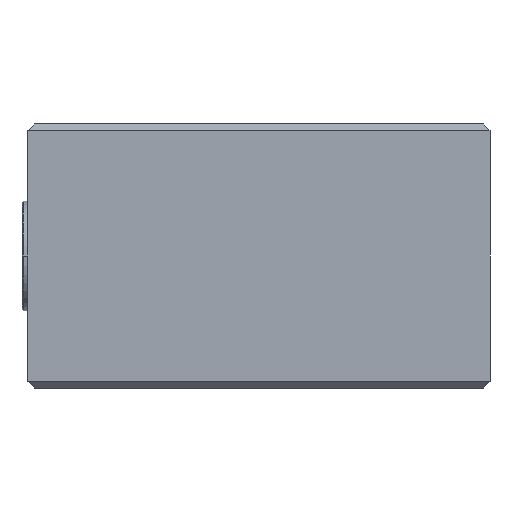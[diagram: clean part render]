
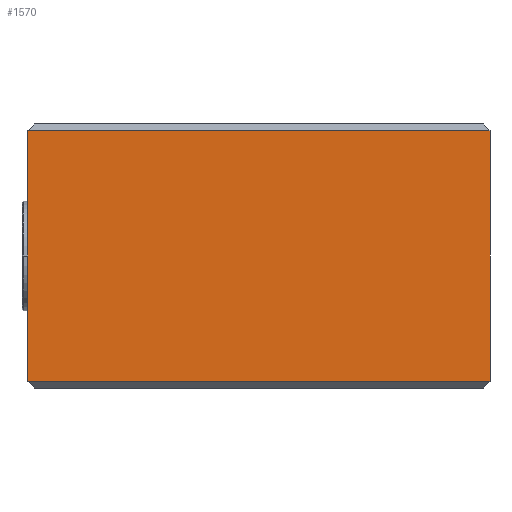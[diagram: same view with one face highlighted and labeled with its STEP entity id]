
A CAD part, left-side view. The second image highlights one B-rep face of the part: STEP entity #1570.
In plain terms, the highlighted planar face has unit normal (-1, 0, 0).
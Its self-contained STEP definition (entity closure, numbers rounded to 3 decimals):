
#480 = CARTESIAN_POINT ( 'NONE',  ( -7.5, 0., 20. ) ) ;
#519 = CARTESIAN_POINT ( 'NONE',  ( -7.5, 0., 19.5 ) ) ;
#784 = ORIENTED_EDGE ( 'NONE', *, *, #8341, .T. ) ;
#1028 = EDGE_LOOP ( 'NONE', ( #6099, #784, #4712, #5624 ) ) ;
#1074 = VECTOR ( 'NONE', #1850, 1000. ) ;
#1143 = DIRECTION ( 'NONE',  ( 0., 0., 1. ) ) ;
#1570 = ADVANCED_FACE ( 'NONE', ( #5247 ), #5457, .T. ) ;
#1673 = DIRECTION ( 'NONE',  ( 0., -1., 0. ) ) ;
#1850 = DIRECTION ( 'NONE',  ( 0., 1., 0. ) ) ;
#1914 = EDGE_CURVE ( 'NONE', #5069, #4234, #2428, .T. ) ;
#2060 = LINE ( 'NONE', #5407, #3299 ) ;
#2311 = CARTESIAN_POINT ( 'NONE',  ( -7.5, -17.5, 0.5 ) ) ;
#2376 = CARTESIAN_POINT ( 'NONE',  ( -7.5, 17.5, 19.5 ) ) ;
#2428 = LINE ( 'NONE', #4806, #4699 ) ;
#3085 = CARTESIAN_POINT ( 'NONE',  ( -7.5, 17.5, 0.5 ) ) ;
#3299 = VECTOR ( 'NONE', #5375, 1000. ) ;
#3454 = LINE ( 'NONE', #519, #1074 ) ;
#4234 = VERTEX_POINT ( 'NONE', #3085 ) ;
#4281 = EDGE_CURVE ( 'NONE', #9062, #6952, #2060, .T. ) ;
#4666 = AXIS2_PLACEMENT_3D ( 'NONE', #480, #6307, #1143 ) ;
#4699 = VECTOR ( 'NONE', #6265, 1000. ) ;
#4712 = ORIENTED_EDGE ( 'NONE', *, *, #4281, .F. ) ;
#4746 = CARTESIAN_POINT ( 'NONE',  ( -7.5, -17.5, 0.5 ) ) ;
#4806 = CARTESIAN_POINT ( 'NONE',  ( -7.5, 17.5, 20. ) ) ;
#5069 = VERTEX_POINT ( 'NONE', #2376 ) ;
#5247 = FACE_OUTER_BOUND ( 'NONE', #1028, .T. ) ;
#5375 = DIRECTION ( 'NONE',  ( 0., 0., -1. ) ) ;
#5407 = CARTESIAN_POINT ( 'NONE',  ( -7.5, -17.5, 20. ) ) ;
#5457 = PLANE ( 'NONE',  #4666 ) ;
#5478 = CARTESIAN_POINT ( 'NONE',  ( -7.5, -17.5, 19.5 ) ) ;
#5624 = ORIENTED_EDGE ( 'NONE', *, *, #5740, .T. ) ;
#5740 = EDGE_CURVE ( 'NONE', #9062, #5069, #3454, .T. ) ;
#6099 = ORIENTED_EDGE ( 'NONE', *, *, #1914, .T. ) ;
#6265 = DIRECTION ( 'NONE',  ( 0., 0., -1. ) ) ;
#6307 = DIRECTION ( 'NONE',  ( -1., 0., 0. ) ) ;
#6952 = VERTEX_POINT ( 'NONE', #4746 ) ;
#7139 = VECTOR ( 'NONE', #1673, 1000. ) ;
#8341 = EDGE_CURVE ( 'NONE', #4234, #6952, #9277, .T. ) ;
#9062 = VERTEX_POINT ( 'NONE', #5478 ) ;
#9277 = LINE ( 'NONE', #2311, #7139 ) ;
